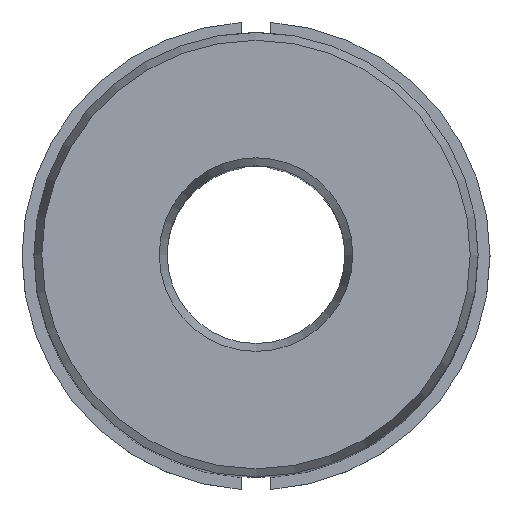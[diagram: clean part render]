
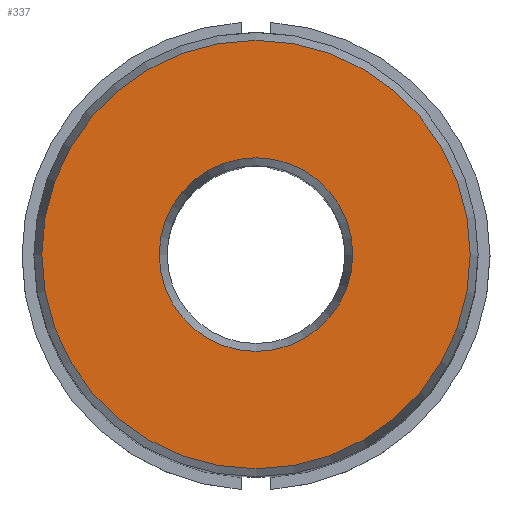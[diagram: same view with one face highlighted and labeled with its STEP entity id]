
A CAD part, top view. The second image highlights one B-rep face of the part: STEP entity #337.
In plain terms, the highlighted planar face has unit normal (0, 0, 1).
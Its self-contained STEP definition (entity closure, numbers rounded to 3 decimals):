
#24=PLANE('',#385);
#137=ORIENTED_EDGE('',*,*,#219,.T.);
#138=ORIENTED_EDGE('',*,*,#220,.F.);
#219=EDGE_CURVE('',#255,#255,#273,.T.);
#220=EDGE_CURVE('',#256,#256,#274,.T.);
#255=VERTEX_POINT('',#591);
#256=VERTEX_POINT('',#593);
#273=CIRCLE('',#386,3.268);
#274=CIRCLE('',#387,7.232);
#287=EDGE_LOOP('',(#137));
#288=EDGE_LOOP('',(#138));
#311=FACE_BOUND('',#287,.T.);
#312=FACE_BOUND('',#288,.T.);
#337=ADVANCED_FACE('',(#311,#312),#24,.T.);
#385=AXIS2_PLACEMENT_3D('',#589,#470,#471);
#386=AXIS2_PLACEMENT_3D('',#590,#472,#473);
#387=AXIS2_PLACEMENT_3D('',#592,#474,#475);
#470=DIRECTION('',(0.,0.,1.));
#471=DIRECTION('',(1.,0.,0.));
#472=DIRECTION('',(0.,0.,-1.));
#473=DIRECTION('',(-1.,0.,0.));
#474=DIRECTION('',(0.,0.,-1.));
#475=DIRECTION('',(-1.,0.,0.));
#589=CARTESIAN_POINT('',(0.,7.232,27.5));
#590=CARTESIAN_POINT('',(0.,0.,27.5));
#591=CARTESIAN_POINT('',(-3.268,0.,27.5));
#592=CARTESIAN_POINT('',(0.,0.,27.5));
#593=CARTESIAN_POINT('',(-7.232,0.,27.5));
